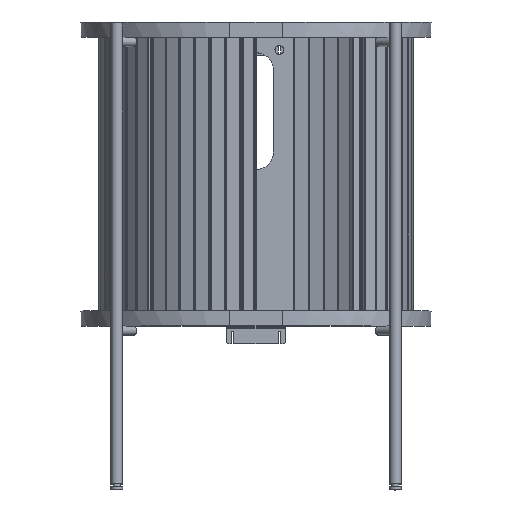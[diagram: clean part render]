
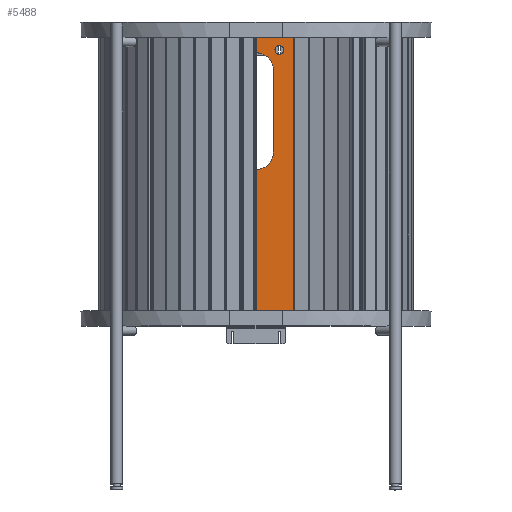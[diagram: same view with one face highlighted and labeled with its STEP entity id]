
A CAD part, top view. The second image highlights one B-rep face of the part: STEP entity #5488.
In plain terms, the highlighted planar face has unit normal (0, 0, 1).
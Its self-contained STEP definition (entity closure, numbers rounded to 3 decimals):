
#2 = EDGE_CURVE ( 'NONE', #10761, #9866, #960, .T. ) ;
#139 = CARTESIAN_POINT ( 'NONE',  ( 30., 40., 8. ) ) ;
#206 = VERTEX_POINT ( 'NONE', #8006 ) ;
#278 = CARTESIAN_POINT ( 'NONE',  ( -30., 180., 8. ) ) ;
#289 = VECTOR ( 'NONE', #2787, 1000. ) ;
#564 = CARTESIAN_POINT ( 'NONE',  ( -65., 240., 8. ) ) ;
#704 = CARTESIAN_POINT ( 'NONE',  ( -65., 240., 8. ) ) ;
#710 = VECTOR ( 'NONE', #5321, 1000. ) ;
#920 = EDGE_CURVE ( 'NONE', #9088, #6204, #7085, .T. ) ;
#960 = LINE ( 'NONE', #2842, #1950 ) ;
#1031 = DIRECTION ( 'NONE',  ( 0., 1., 0. ) ) ;
#1172 = DIRECTION ( 'NONE',  ( 0., 0., -1. ) ) ;
#1376 = CARTESIAN_POINT ( 'NONE',  ( 30., 180., 8. ) ) ;
#1378 = ORIENTED_EDGE ( 'NONE', *, *, #5814, .F. ) ;
#1420 = DIRECTION ( 'NONE',  ( 0., -1., 0. ) ) ;
#1605 = DIRECTION ( 'NONE',  ( 1., 0., 0. ) ) ;
#1690 = CIRCLE ( 'NONE', #6028, 7.5 ) ;
#1950 = VECTOR ( 'NONE', #6906, 1000. ) ;
#2000 = VECTOR ( 'NONE', #1420, 1000. ) ;
#2117 = EDGE_CURVE ( 'NONE', #206, #8177, #5766, .T. ) ;
#2639 = FACE_BOUND ( 'NONE', #6540, .T. ) ;
#2787 = DIRECTION ( 'NONE',  ( -1., 0., 0. ) ) ;
#2842 = CARTESIAN_POINT ( 'NONE',  ( -65., -240., 8. ) ) ;
#3464 = EDGE_CURVE ( 'NONE', #6204, #11022, #8288, .T. ) ;
#3469 = AXIS2_PLACEMENT_3D ( 'NONE', #7965, #5054, #4991 ) ;
#3891 = AXIS2_PLACEMENT_3D ( 'NONE', #8281, #1172, #12234 ) ;
#4600 = VERTEX_POINT ( 'NONE', #9714 ) ;
#4936 = CIRCLE ( 'NONE', #3891, 7.5 ) ;
#4991 = DIRECTION ( 'NONE',  ( 1., 0., 0. ) ) ;
#5039 = LINE ( 'NONE', #11898, #8602 ) ;
#5054 = DIRECTION ( 'NONE',  ( 0., 0., 1. ) ) ;
#5199 = LINE ( 'NONE', #278, #7369 ) ;
#5321 = DIRECTION ( 'NONE',  ( 0., 1., 0. ) ) ;
#5356 = CARTESIAN_POINT ( 'NONE',  ( -65., -240., 8. ) ) ;
#5409 = CARTESIAN_POINT ( 'NONE',  ( -40., 215., 8. ) ) ;
#5475 = EDGE_LOOP ( 'NONE', ( #11601 ) ) ;
#5488 = ADVANCED_FACE ( 'NONE', ( #5620, #7485, #2639, #8327 ), #11511, .T. ) ;
#5585 = EDGE_CURVE ( 'NONE', #8177, #10761, #8272, .T. ) ;
#5593 = CARTESIAN_POINT ( 'NONE',  ( 0., 40., 8. ) ) ;
#5620 = FACE_BOUND ( 'NONE', #5475, .T. ) ;
#5766 = LINE ( 'NONE', #704, #289 ) ;
#5814 = EDGE_CURVE ( 'NONE', #4600, #9088, #5199, .T. ) ;
#5969 = VERTEX_POINT ( 'NONE', #9974 ) ;
#6028 = AXIS2_PLACEMENT_3D ( 'NONE', #5409, #8127, #6385 ) ;
#6061 = CARTESIAN_POINT ( 'NONE',  ( -30., 40., 8. ) ) ;
#6204 = VERTEX_POINT ( 'NONE', #139 ) ;
#6385 = DIRECTION ( 'NONE',  ( 1., 0., 0. ) ) ;
#6540 = EDGE_LOOP ( 'NONE', ( #8329, #9162, #11166, #1378 ) ) ;
#6564 = DIRECTION ( 'NONE',  ( 0., 0., 1. ) ) ;
#6906 = DIRECTION ( 'NONE',  ( 1., 0., 0. ) ) ;
#7013 = EDGE_LOOP ( 'NONE', ( #10571, #12138, #10234, #8647 ) ) ;
#7063 = VERTEX_POINT ( 'NONE', #11856 ) ;
#7085 = CIRCLE ( 'NONE', #10374, 30. ) ;
#7369 = VECTOR ( 'NONE', #10180, 1000. ) ;
#7485 = FACE_BOUND ( 'NONE', #12718, .T. ) ;
#7532 = EDGE_CURVE ( 'NONE', #11022, #4600, #9044, .T. ) ;
#7843 = EDGE_CURVE ( 'NONE', #5969, #5969, #4936, .T. ) ;
#7952 = CARTESIAN_POINT ( 'NONE',  ( -65., 240., 8. ) ) ;
#7965 = CARTESIAN_POINT ( 'NONE',  ( 0., 180., 8. ) ) ;
#8006 = CARTESIAN_POINT ( 'NONE',  ( 65., 240., 8. ) ) ;
#8127 = DIRECTION ( 'NONE',  ( 0., 0., -1. ) ) ;
#8177 = VERTEX_POINT ( 'NONE', #7952 ) ;
#8272 = LINE ( 'NONE', #564, #2000 ) ;
#8281 = CARTESIAN_POINT ( 'NONE',  ( 40., 215., 8. ) ) ;
#8288 = LINE ( 'NONE', #1376, #710 ) ;
#8327 = FACE_OUTER_BOUND ( 'NONE', #7013, .T. ) ;
#8329 = ORIENTED_EDGE ( 'NONE', *, *, #7532, .F. ) ;
#8602 = VECTOR ( 'NONE', #1031, 1000. ) ;
#8647 = ORIENTED_EDGE ( 'NONE', *, *, #2117, .T. ) ;
#9044 = CIRCLE ( 'NONE', #3469, 30. ) ;
#9088 = VERTEX_POINT ( 'NONE', #6061 ) ;
#9162 = ORIENTED_EDGE ( 'NONE', *, *, #3464, .F. ) ;
#9199 = EDGE_CURVE ( 'NONE', #7063, #7063, #1690, .T. ) ;
#9554 = CARTESIAN_POINT ( 'NONE',  ( 30., 180., 8. ) ) ;
#9560 = DIRECTION ( 'NONE',  ( 0., 0., 1. ) ) ;
#9645 = AXIS2_PLACEMENT_3D ( 'NONE', #11438, #9560, #1605 ) ;
#9714 = CARTESIAN_POINT ( 'NONE',  ( -30., 180., 8. ) ) ;
#9866 = VERTEX_POINT ( 'NONE', #11541 ) ;
#9974 = CARTESIAN_POINT ( 'NONE',  ( 32.5, 215., 8. ) ) ;
#10180 = DIRECTION ( 'NONE',  ( 0., -1., 0. ) ) ;
#10234 = ORIENTED_EDGE ( 'NONE', *, *, #10572, .T. ) ;
#10374 = AXIS2_PLACEMENT_3D ( 'NONE', #5593, #6564, #10501 ) ;
#10501 = DIRECTION ( 'NONE',  ( 1., 0., 0. ) ) ;
#10571 = ORIENTED_EDGE ( 'NONE', *, *, #5585, .T. ) ;
#10572 = EDGE_CURVE ( 'NONE', #9866, #206, #5039, .T. ) ;
#10761 = VERTEX_POINT ( 'NONE', #5356 ) ;
#11022 = VERTEX_POINT ( 'NONE', #9554 ) ;
#11166 = ORIENTED_EDGE ( 'NONE', *, *, #920, .F. ) ;
#11438 = CARTESIAN_POINT ( 'NONE',  ( 0., 0., 8. ) ) ;
#11511 = PLANE ( 'NONE',  #9645 ) ;
#11541 = CARTESIAN_POINT ( 'NONE',  ( 65., -240., 8. ) ) ;
#11601 = ORIENTED_EDGE ( 'NONE', *, *, #7843, .T. ) ;
#11856 = CARTESIAN_POINT ( 'NONE',  ( -32.5, 215., 8. ) ) ;
#11898 = CARTESIAN_POINT ( 'NONE',  ( 65., 240., 8. ) ) ;
#12138 = ORIENTED_EDGE ( 'NONE', *, *, #2, .T. ) ;
#12234 = DIRECTION ( 'NONE',  ( -1., 0., 0. ) ) ;
#12581 = ORIENTED_EDGE ( 'NONE', *, *, #9199, .T. ) ;
#12718 = EDGE_LOOP ( 'NONE', ( #12581 ) ) ;
